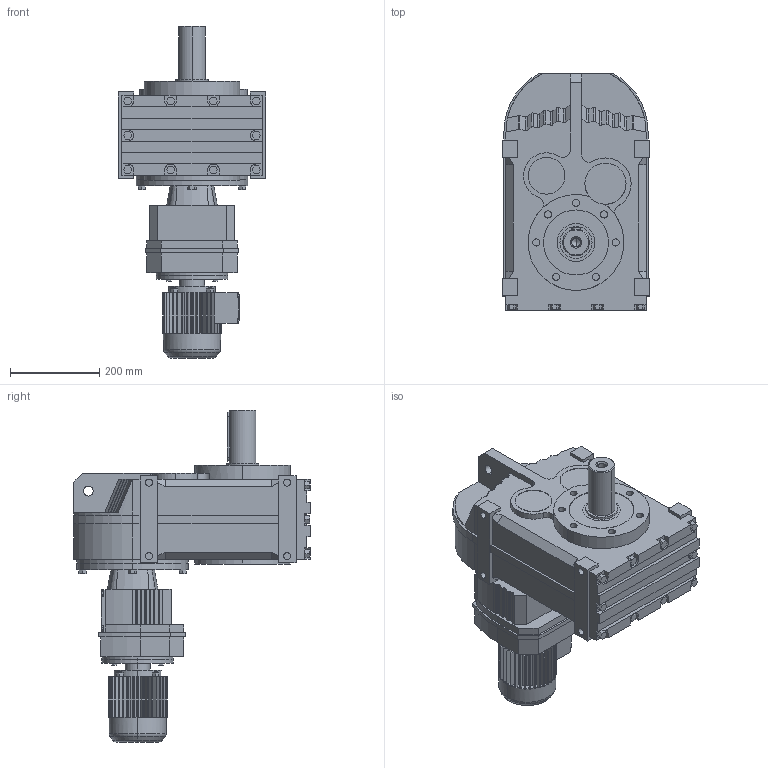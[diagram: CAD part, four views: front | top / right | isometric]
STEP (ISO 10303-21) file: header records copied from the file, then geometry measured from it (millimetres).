
FILE_DESCRIPTION(('Open CASCADE Model'),'2;1');
FILE_NAME('Open CASCADE Shape Model','2021-07-24T10:28:25',('Author'),( 'Open CASCADE'),'Open CASCADE STEP processor 6.3','Open CASCADE 6.3' ,'Unknown');
FILE_SCHEMA(('AUTOMOTIVE_DESIGN_CC2 { 1 2 10303 214 -1 1 5 4 }'));
Length unit declared in the file: millimetre
Products named in the file (5): 1_F87R57DR63; FAZ27‵157_87.step; 萇儂_160-DR63-185-240-132-105.step; R_87_57.step; す瑩妗陑粣F_87.step
Assembly tree (4 placements, depth 2):
  1_F87R57DR63
    FAZ27‵157_87.step
    萇儂_160-DR63-185-240-132-105.step
    R_87_57.step
    す瑩妗陑粣F_87.step
Bounding box: 330 x 531 x 745 mm (x, y, z)
Volume: 38017164.3 mm3; surface area: 1368246.3 mm2
Topology: 4 solids, 4 shells, 1014 faces, 2684 edges, 1754 vertices
Faces by surface type: plane 751, cylinder 227, bspline 16, cone 16, torus 4
Entity records: 68395 total; most frequent: CARTESIAN_POINT 16443, DIRECTION 9168, LINE 5479, VECTOR 5479, ORIENTED_EDGE 5364, PCURVE 5364, DEFINITIONAL_REPRESENTATION 5364, EDGE_CURVE 2682
